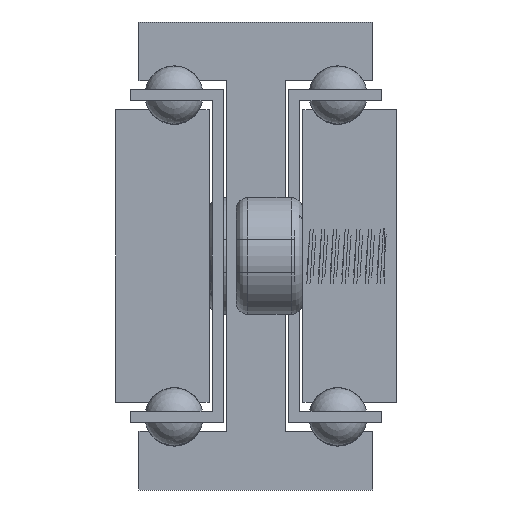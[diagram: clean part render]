
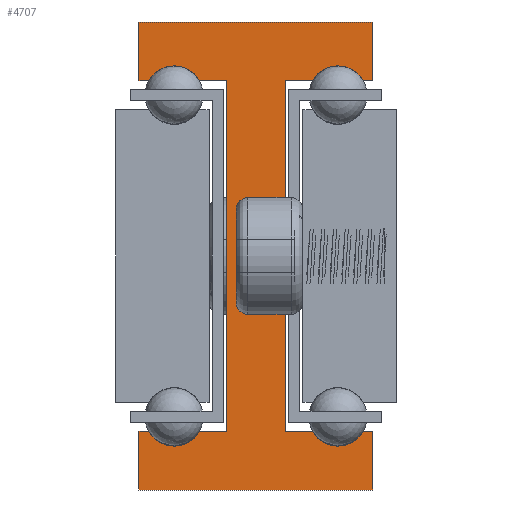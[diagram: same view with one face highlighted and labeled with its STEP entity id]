
A CAD part, front view. The second image highlights one B-rep face of the part: STEP entity #4707.
In plain terms, the highlighted planar face has unit normal (0, -1, 0).
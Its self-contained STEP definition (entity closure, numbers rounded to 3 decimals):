
#196=LINE('',#6808,#674);
#199=LINE('',#6814,#677);
#202=LINE('',#6820,#680);
#206=LINE('',#6832,#684);
#209=LINE('',#6838,#687);
#212=LINE('',#6844,#690);
#216=LINE('',#6856,#694);
#219=LINE('',#6862,#697);
#222=LINE('',#6868,#700);
#225=LINE('',#6874,#703);
#228=LINE('',#6880,#706);
#232=LINE('',#6892,#710);
#235=LINE('',#6898,#713);
#238=LINE('',#6904,#716);
#242=LINE('',#6916,#720);
#245=LINE('',#6920,#723);
#674=VECTOR('',#5500,1.);
#677=VECTOR('',#5505,1.);
#680=VECTOR('',#5510,1.);
#684=VECTOR('',#5522,1.);
#687=VECTOR('',#5527,1.);
#690=VECTOR('',#5532,1.);
#694=VECTOR('',#5544,1.);
#697=VECTOR('',#5549,1.);
#700=VECTOR('',#5554,1.);
#703=VECTOR('',#5559,1.);
#706=VECTOR('',#5564,1.);
#710=VECTOR('',#5576,1.);
#713=VECTOR('',#5581,1.);
#716=VECTOR('',#5586,1.);
#720=VECTOR('',#5598,1.);
#723=VECTOR('',#5603,1.);
#1155=PLANE('',#5063);
#1483=FACE_OUTER_BOUND('',#1783,.T.);
#1783=EDGE_LOOP('',(#3540,#3541,#3542,#3543,#3544,#3545,#3546,#3547,#3548,
#3549,#3550,#3551,#3552,#3553,#3554,#3555,#3556,#3557,#3558,#3559));
#2157=CIRCLE('',#5039,2.5);
#2159=CIRCLE('',#5045,2.5);
#2161=CIRCLE('',#5053,2.5);
#2163=CIRCLE('',#5059,2.5);
#2300=VERTEX_POINT('',#6805);
#2301=VERTEX_POINT('',#6807);
#2303=VERTEX_POINT('',#6813);
#2305=VERTEX_POINT('',#6819);
#2307=VERTEX_POINT('',#6825);
#2309=VERTEX_POINT('',#6831);
#2311=VERTEX_POINT('',#6837);
#2313=VERTEX_POINT('',#6843);
#2315=VERTEX_POINT('',#6849);
#2317=VERTEX_POINT('',#6855);
#2319=VERTEX_POINT('',#6861);
#2321=VERTEX_POINT('',#6867);
#2323=VERTEX_POINT('',#6873);
#2325=VERTEX_POINT('',#6879);
#2327=VERTEX_POINT('',#6885);
#2329=VERTEX_POINT('',#6891);
#2331=VERTEX_POINT('',#6897);
#2333=VERTEX_POINT('',#6903);
#2335=VERTEX_POINT('',#6909);
#2337=VERTEX_POINT('',#6915);
#2786=EDGE_CURVE('',#2301,#2300,#196,.T.);
#2789=EDGE_CURVE('',#2303,#2301,#199,.T.);
#2792=EDGE_CURVE('',#2305,#2303,#202,.T.);
#2795=EDGE_CURVE('',#2307,#2305,#2157,.T.);
#2798=EDGE_CURVE('',#2309,#2307,#206,.T.);
#2801=EDGE_CURVE('',#2311,#2309,#209,.T.);
#2804=EDGE_CURVE('',#2313,#2311,#212,.T.);
#2807=EDGE_CURVE('',#2315,#2313,#2159,.T.);
#2810=EDGE_CURVE('',#2317,#2315,#216,.T.);
#2813=EDGE_CURVE('',#2319,#2317,#219,.T.);
#2816=EDGE_CURVE('',#2321,#2319,#222,.T.);
#2819=EDGE_CURVE('',#2323,#2321,#225,.T.);
#2822=EDGE_CURVE('',#2325,#2323,#228,.T.);
#2825=EDGE_CURVE('',#2327,#2325,#2161,.T.);
#2828=EDGE_CURVE('',#2329,#2327,#232,.T.);
#2831=EDGE_CURVE('',#2331,#2329,#235,.T.);
#2834=EDGE_CURVE('',#2333,#2331,#238,.T.);
#2837=EDGE_CURVE('',#2335,#2333,#2163,.T.);
#2840=EDGE_CURVE('',#2337,#2335,#242,.T.);
#2843=EDGE_CURVE('',#2300,#2337,#245,.T.);
#3540=ORIENTED_EDGE('',*,*,#2843,.T.);
#3541=ORIENTED_EDGE('',*,*,#2840,.T.);
#3542=ORIENTED_EDGE('',*,*,#2837,.T.);
#3543=ORIENTED_EDGE('',*,*,#2834,.T.);
#3544=ORIENTED_EDGE('',*,*,#2831,.T.);
#3545=ORIENTED_EDGE('',*,*,#2828,.T.);
#3546=ORIENTED_EDGE('',*,*,#2825,.T.);
#3547=ORIENTED_EDGE('',*,*,#2822,.T.);
#3548=ORIENTED_EDGE('',*,*,#2819,.T.);
#3549=ORIENTED_EDGE('',*,*,#2816,.T.);
#3550=ORIENTED_EDGE('',*,*,#2813,.T.);
#3551=ORIENTED_EDGE('',*,*,#2810,.T.);
#3552=ORIENTED_EDGE('',*,*,#2807,.T.);
#3553=ORIENTED_EDGE('',*,*,#2804,.T.);
#3554=ORIENTED_EDGE('',*,*,#2801,.T.);
#3555=ORIENTED_EDGE('',*,*,#2798,.T.);
#3556=ORIENTED_EDGE('',*,*,#2795,.T.);
#3557=ORIENTED_EDGE('',*,*,#2792,.T.);
#3558=ORIENTED_EDGE('',*,*,#2789,.T.);
#3559=ORIENTED_EDGE('',*,*,#2786,.T.);
#4707=ADVANCED_FACE('',(#1483),#1155,.T.);
#5039=AXIS2_PLACEMENT_3D('',#6826,#5516,#5517);
#5045=AXIS2_PLACEMENT_3D('',#6850,#5538,#5539);
#5053=AXIS2_PLACEMENT_3D('',#6886,#5570,#5571);
#5059=AXIS2_PLACEMENT_3D('',#6910,#5592,#5593);
#5063=AXIS2_PLACEMENT_3D('',#6922,#5606,#5607);
#5500=DIRECTION('',(-1.,0.,0.));
#5505=DIRECTION('',(0.,0.,1.));
#5510=DIRECTION('',(1.,0.,0.));
#5516=DIRECTION('center_axis',(0.,1.,0.));
#5517=DIRECTION('ref_axis',(0.866,0.,0.5));
#5522=DIRECTION('',(1.,0.,0.));
#5527=DIRECTION('',(0.,0.,1.));
#5532=DIRECTION('',(-1.,0.,0.));
#5538=DIRECTION('center_axis',(0.,1.,0.));
#5539=DIRECTION('ref_axis',(-0.866,0.,-0.5));
#5544=DIRECTION('',(-1.,0.,0.));
#5549=DIRECTION('',(0.,0.,1.));
#5554=DIRECTION('',(1.,0.,0.));
#5559=DIRECTION('',(0.,0.,-1.));
#5564=DIRECTION('',(-1.,0.,0.));
#5570=DIRECTION('center_axis',(0.,1.,0.));
#5571=DIRECTION('ref_axis',(-0.866,0.,-0.5));
#5576=DIRECTION('',(-1.,0.,0.));
#5581=DIRECTION('',(0.,0.,-1.));
#5586=DIRECTION('',(1.,0.,0.));
#5592=DIRECTION('center_axis',(0.,1.,0.));
#5593=DIRECTION('ref_axis',(0.866,0.,0.5));
#5598=DIRECTION('',(1.,0.,0.));
#5603=DIRECTION('',(0.,0.,-1.));
#5606=DIRECTION('center_axis',(0.,-1.,0.));
#5607=DIRECTION('ref_axis',(1.,0.,0.));
#6805=CARTESIAN_POINT('',(1457.079,1164.775,220.));
#6807=CARTESIAN_POINT('',(1477.079,1164.775,220.));
#6808=CARTESIAN_POINT('',(1457.079,1164.775,220.));
#6813=CARTESIAN_POINT('',(1477.079,1164.775,215.));
#6814=CARTESIAN_POINT('',(1477.079,1164.775,220.));
#6819=CARTESIAN_POINT('',(1476.244,1164.775,215.));
#6820=CARTESIAN_POINT('',(1477.079,1164.775,215.));
#6825=CARTESIAN_POINT('',(1471.914,1164.775,215.));
#6826=CARTESIAN_POINT('Origin',(1474.079,1164.775,213.75));
#6831=CARTESIAN_POINT('',(1469.579,1164.775,215.));
#6832=CARTESIAN_POINT('',(1471.914,1164.775,215.));
#6837=CARTESIAN_POINT('',(1469.579,1164.775,185.));
#6838=CARTESIAN_POINT('',(1469.579,1164.775,215.));
#6843=CARTESIAN_POINT('',(1471.914,1164.775,185.));
#6844=CARTESIAN_POINT('',(1469.579,1164.775,185.));
#6849=CARTESIAN_POINT('',(1476.244,1164.775,185.));
#6850=CARTESIAN_POINT('Origin',(1474.079,1164.775,186.25));
#6855=CARTESIAN_POINT('',(1477.079,1164.775,185.));
#6856=CARTESIAN_POINT('',(1476.244,1164.775,185.));
#6861=CARTESIAN_POINT('',(1477.079,1164.775,180.));
#6862=CARTESIAN_POINT('',(1477.079,1164.775,185.));
#6867=CARTESIAN_POINT('',(1457.079,1164.775,180.));
#6868=CARTESIAN_POINT('',(1477.079,1164.775,180.));
#6873=CARTESIAN_POINT('',(1457.079,1164.775,185.));
#6874=CARTESIAN_POINT('',(1457.079,1164.775,180.));
#6879=CARTESIAN_POINT('',(1457.914,1164.775,185.));
#6880=CARTESIAN_POINT('',(1457.079,1164.775,185.));
#6885=CARTESIAN_POINT('',(1462.244,1164.775,185.));
#6886=CARTESIAN_POINT('Origin',(1460.079,1164.775,186.25));
#6891=CARTESIAN_POINT('',(1464.579,1164.775,185.));
#6892=CARTESIAN_POINT('',(1462.244,1164.775,185.));
#6897=CARTESIAN_POINT('',(1464.579,1164.775,215.));
#6898=CARTESIAN_POINT('',(1464.579,1164.775,185.));
#6903=CARTESIAN_POINT('',(1462.244,1164.775,215.));
#6904=CARTESIAN_POINT('',(1464.579,1164.775,215.));
#6909=CARTESIAN_POINT('',(1457.914,1164.775,215.));
#6910=CARTESIAN_POINT('Origin',(1460.079,1164.775,213.75));
#6915=CARTESIAN_POINT('',(1457.079,1164.775,215.));
#6916=CARTESIAN_POINT('',(1457.914,1164.775,215.));
#6920=CARTESIAN_POINT('',(1457.079,1164.775,215.));
#6922=CARTESIAN_POINT('Origin',(1467.079,1164.775,200.));
